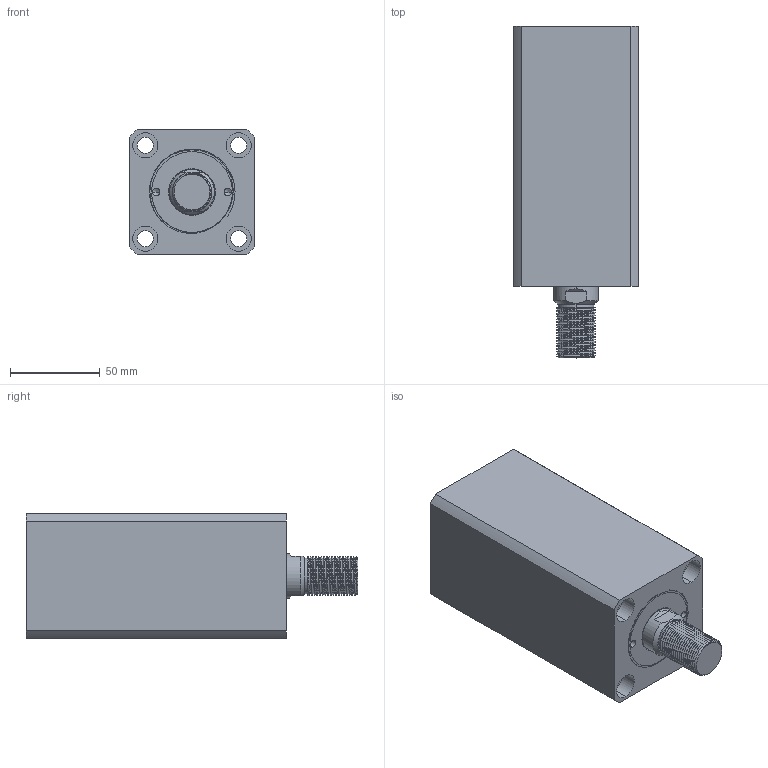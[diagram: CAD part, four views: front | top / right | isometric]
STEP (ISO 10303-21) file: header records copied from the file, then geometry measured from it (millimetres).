
FILE_DESCRIPTION (( 'STEP AP214' ), '1' );
FILE_NAME ('chtb-sdmb40x90w_asm.STEP', '2018-06-07T01:05:02', ( 'Windows' ), ( 'Microsoft' ), 'SwSTEP 2.0', 'SolidWorks 2015', '' );
FILE_SCHEMA (( 'AUTOMOTIVE_DESIGN' ));
Length unit declared in the file: millimetre
Products named in the file (4): CHTB-SDMB40X90NBT; CHTB-SD40X90WHSG; chtb-sdmb40x90w_asm; CHTB-SD40QG
Assembly tree (3 placements, depth 2):
  chtb-sdmb40x90w_asm
    CHTB-SD40X90WHSG
    CHTB-SDMB40X90NBT
    CHTB-SD40QG
Bounding box: 70 x 185 x 70 mm (x, y, z)
Volume: 600236.8 mm3; surface area: 116526.1 mm2
Topology: 3 solids, 4 shells, 201 faces, 539 edges, 359 vertices
Faces by surface type: cylinder 122, plane 38, bspline 16, torus 14, cone 11
Entity records: 13455 total; most frequent: CARTESIAN_POINT 8586, ORIENTED_EDGE 1066, DIRECTION 904, EDGE_CURVE 533, AXIS2_PLACEMENT_3D 374, VERTEX_POINT 359, EDGE_LOOP 238, ADVANCED_FACE 201
